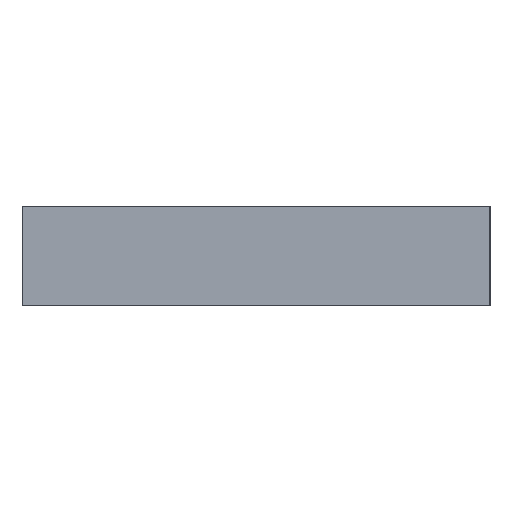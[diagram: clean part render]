
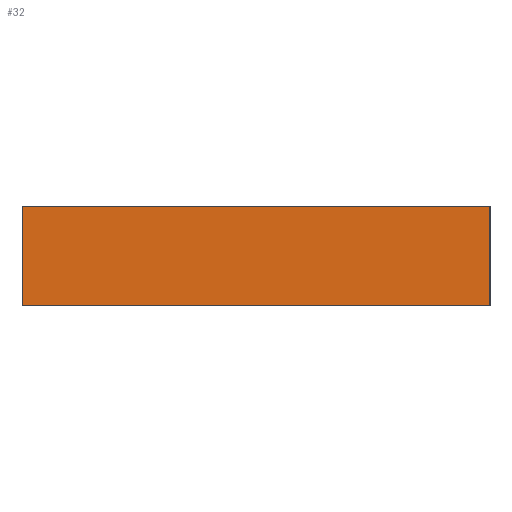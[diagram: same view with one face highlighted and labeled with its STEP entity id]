
A CAD part, left-side view. The second image highlights one B-rep face of the part: STEP entity #32.
In plain terms, the highlighted planar face has unit normal (-1, 0, 0).
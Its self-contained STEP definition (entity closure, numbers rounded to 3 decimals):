
#32=ADVANCED_FACE('',(#48),#280,.T.);
#48=FACE_OUTER_BOUND('',#64,.T.);
#64=EDGE_LOOP('',(#111,#112,#113,#114));
#111=ORIENTED_EDGE('',*,*,#191,.T.);
#112=ORIENTED_EDGE('',*,*,#181,.T.);
#113=ORIENTED_EDGE('',*,*,#192,.F.);
#114=ORIENTED_EDGE('',*,*,#190,.T.);
#181=EDGE_CURVE('',#263,#264,#243,.T.);
#190=EDGE_CURVE('',#269,#270,#244,.T.);
#191=EDGE_CURVE('',#270,#263,#245,.T.);
#192=EDGE_CURVE('',#269,#264,#246,.T.);
#243=B_SPLINE_CURVE_WITH_KNOTS('',1,(#546,#547),.UNSPECIFIED.,.F.,.F.,(2,
2),(0.,5.),.UNSPECIFIED.);
#244=B_SPLINE_CURVE_WITH_KNOTS('',1,(#590,#591,#592),.UNSPECIFIED.,.F.,
 .F.,(2,1,2),(1567.145,1568.403,1572.145),
 .UNSPECIFIED.);
#245=B_SPLINE_CURVE_WITH_KNOTS('',1,(#593,#594,#595,#596,#597,#598),
 .UNSPECIFIED.,.F.,.F.,(2,1,1,1,1,2),(-53.595,-47.211,
-40.165,-35.902,-31.897,-30.013),
 .UNSPECIFIED.);
#246=B_SPLINE_CURVE_WITH_KNOTS('',1,(#599,#600,#601,#602,#603,#604),
 .UNSPECIFIED.,.F.,.F.,(2,1,1,1,1,2),(-53.595,-47.211,
-40.165,-35.902,-31.897,-30.013),
 .UNSPECIFIED.);
#263=VERTEX_POINT('',#467);
#264=VERTEX_POINT('',#468);
#269=VERTEX_POINT('',#473);
#270=VERTEX_POINT('',#474);
#280=PLANE('',#316);
#316=AXIS2_PLACEMENT_3D('',#410,#325,$);
#325=DIRECTION('',(-1.,0.,0.));
#410=CARTESIAN_POINT('',(-13.946,162.617,365.976));
#467=CARTESIAN_POINT('',(-13.946,188.084,365.976));
#468=CARTESIAN_POINT('',(-13.946,188.084,360.976));
#473=CARTESIAN_POINT('',(-13.946,164.501,360.976));
#474=CARTESIAN_POINT('',(-13.946,164.501,365.976));
#546=CARTESIAN_POINT('',(-13.946,188.084,365.976));
#547=CARTESIAN_POINT('',(-13.946,188.084,360.976));
#590=CARTESIAN_POINT('',(-13.946,164.501,360.976));
#591=CARTESIAN_POINT('',(-13.946,164.501,362.234));
#592=CARTESIAN_POINT('',(-13.946,164.501,365.976));
#593=CARTESIAN_POINT('',(-13.946,164.501,365.976));
#594=CARTESIAN_POINT('',(-13.946,170.886,365.976));
#595=CARTESIAN_POINT('',(-13.946,177.932,365.976));
#596=CARTESIAN_POINT('',(-13.946,182.195,365.976));
#597=CARTESIAN_POINT('',(-13.946,186.2,365.976));
#598=CARTESIAN_POINT('',(-13.946,188.084,365.976));
#599=CARTESIAN_POINT('',(-13.946,164.501,360.976));
#600=CARTESIAN_POINT('',(-13.946,170.886,360.976));
#601=CARTESIAN_POINT('',(-13.946,177.932,360.976));
#602=CARTESIAN_POINT('',(-13.946,182.195,360.976));
#603=CARTESIAN_POINT('',(-13.946,186.2,360.976));
#604=CARTESIAN_POINT('',(-13.946,188.084,360.976));
